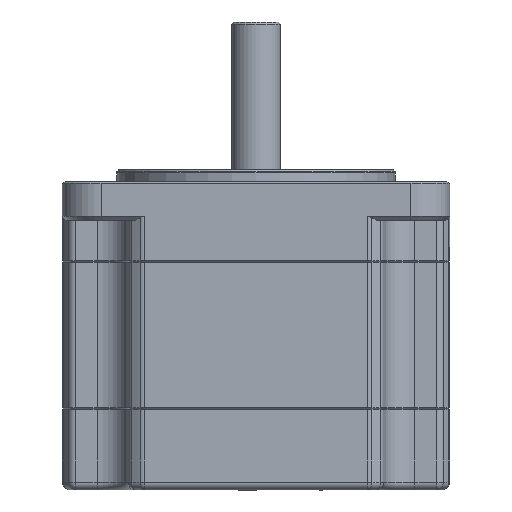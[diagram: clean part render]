
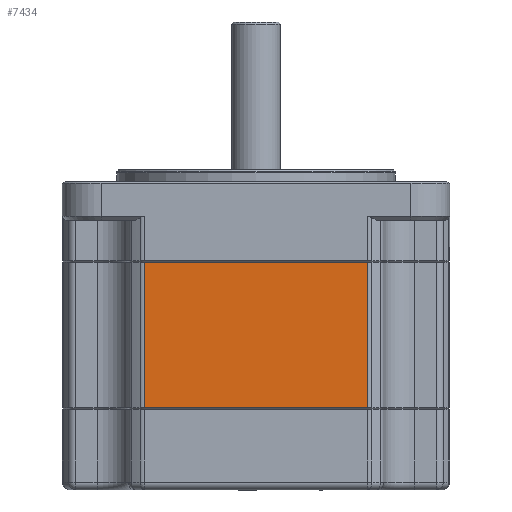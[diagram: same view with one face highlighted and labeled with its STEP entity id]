
A CAD part, front view. The second image highlights one B-rep face of the part: STEP entity #7434.
In plain terms, the highlighted planar face has unit normal (0, -1, 0).
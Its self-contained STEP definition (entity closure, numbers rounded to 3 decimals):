
#656 = CARTESIAN_POINT ( 'NONE',  ( 14.422, -25., -29.2 ) ) ;
#657 = CARTESIAN_POINT ( 'NONE',  ( 14.422, -25., -10.4 ) ) ;
#658 = CARTESIAN_POINT ( 'NONE',  ( -14.422, -25., -29.2 ) ) ;
#659 = CARTESIAN_POINT ( 'NONE',  ( -14.422, -25., -10.4 ) ) ;
#2135 = PLANE ( 'NONE',  #12887 ) ;
#2136 = CARTESIAN_POINT ( 'NONE',  ( 14.422, -25., -29.4 ) ) ;
#2137 = DIRECTION ( 'NONE',  ( 0., 1., 0. ) ) ;
#2138 = DIRECTION ( 'NONE',  ( 0., 0., 1. ) ) ;
#4168 = LINE ( 'NONE', #4169, #4900 ) ;
#4169 = CARTESIAN_POINT ( 'NONE',  ( 14.422, -25., -10.4 ) ) ;
#4170 = DIRECTION ( 'NONE',  ( -1., 0., 0. ) ) ;
#4285 = LINE ( 'NONE', #4286, #4939 ) ;
#4286 = CARTESIAN_POINT ( 'NONE',  ( 14.422, -25., -29.4 ) ) ;
#4287 = DIRECTION ( 'NONE',  ( 0., 0., 1. ) ) ;
#4291 = LINE ( 'NONE', #4292, #4940 ) ;
#4292 = CARTESIAN_POINT ( 'NONE',  ( 14.422, -25., -29.2 ) ) ;
#4293 = DIRECTION ( 'NONE',  ( 1., 0., 0. ) ) ;
#4294 = LINE ( 'NONE', #4295, #4941 ) ;
#4295 = CARTESIAN_POINT ( 'NONE',  ( -14.422, -25., -29.4 ) ) ;
#4296 = DIRECTION ( 'NONE',  ( 0., 0., 1. ) ) ;
#4900 = VECTOR ( 'NONE', #4170, 1000. ) ;
#4939 = VECTOR ( 'NONE', #4287, 1000. ) ;
#4940 = VECTOR ( 'NONE', #4293, 1000. ) ;
#4941 = VECTOR ( 'NONE', #4296, 1000. ) ;
#7434 = ADVANCED_FACE ( 'NONE', ( #12882 ), #2135, .F. ) ;
#8019 = ORIENTED_EDGE ( 'NONE', *, *, #17771, .T. ) ;
#8020 = ORIENTED_EDGE ( 'NONE', *, *, #17812, .T. ) ;
#8021 = ORIENTED_EDGE ( 'NONE', *, *, #17810, .T. ) ;
#8022 = ORIENTED_EDGE ( 'NONE', *, *, #17813, .F. ) ;
#9519 = EDGE_LOOP ( 'NONE', ( #8022, #8020, #8021, #8019 ) ) ;
#11867 = VERTEX_POINT ( 'NONE', #656 ) ;
#11868 = VERTEX_POINT ( 'NONE', #657 ) ;
#11869 = VERTEX_POINT ( 'NONE', #658 ) ;
#11870 = VERTEX_POINT ( 'NONE', #659 ) ;
#12882 = FACE_OUTER_BOUND ( 'NONE', #9519, .T. ) ;
#12887 = AXIS2_PLACEMENT_3D ( 'NONE', #2136, #2137, #2138 ) ;
#17771 = EDGE_CURVE ( 'NONE', #11868, #11870, #4168, .T. ) ;
#17810 = EDGE_CURVE ( 'NONE', #11867, #11868, #4285, .T. ) ;
#17812 = EDGE_CURVE ( 'NONE', #11869, #11867, #4291, .T. ) ;
#17813 = EDGE_CURVE ( 'NONE', #11869, #11870, #4294, .T. ) ;
